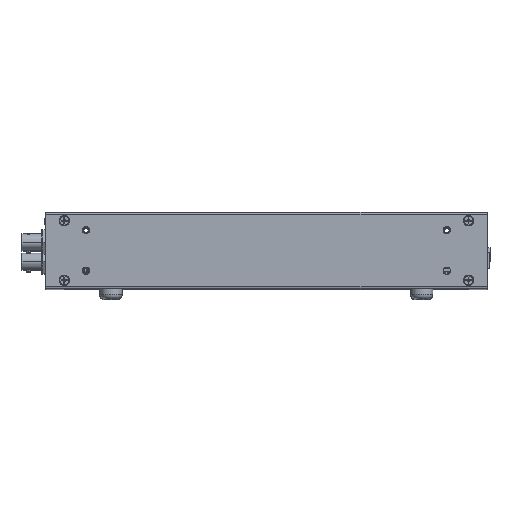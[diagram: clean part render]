
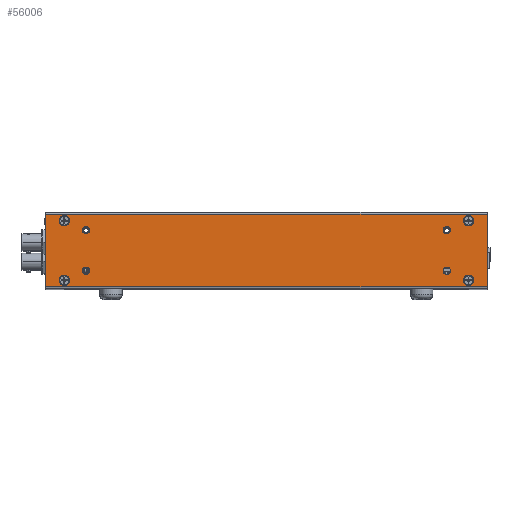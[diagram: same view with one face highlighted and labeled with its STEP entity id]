
A CAD part, top view. The second image highlights one B-rep face of the part: STEP entity #56006.
In plain terms, the highlighted planar face has unit normal (0, 0, 1).
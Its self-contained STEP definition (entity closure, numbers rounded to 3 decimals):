
#13926=DIRECTION('',(0.,-1.,0.));
#13927=VECTOR('',#13926,1.65);
#13928=CARTESIAN_POINT('',(10.,1.69,12.06));
#13929=LINE('',#13928,#13927);
#13962=DIRECTION('',(0.,-1.,0.));
#13963=VECTOR('',#13962,1.65);
#13964=CARTESIAN_POINT('',(0.,1.69,12.06));
#13965=LINE('',#13964,#13963);
#13978=DIRECTION('',(-1.,0.,0.));
#13979=VECTOR('',#13978,10.);
#13980=CARTESIAN_POINT('',(10.,1.69,12.06));
#13981=LINE('',#13980,#13979);
#13996=CARTESIAN_POINT('',(0.422,1.54,12.06));
#13997=DIRECTION('',(0.,0.,-1.));
#13998=DIRECTION('',(0.,1.,0.));
#13999=AXIS2_PLACEMENT_3D('',#13996,#13997,#13998);
#14001=CARTESIAN_POINT('',(0.422,1.54,12.06));
#14002=DIRECTION('',(0.,0.,-1.));
#14003=DIRECTION('',(0.,-1.,0.));
#14004=AXIS2_PLACEMENT_3D('',#14001,#14002,#14003);
#14006=CARTESIAN_POINT('',(0.422,0.19,12.06));
#14007=DIRECTION('',(0.,0.,-1.));
#14008=DIRECTION('',(0.,1.,0.));
#14009=AXIS2_PLACEMENT_3D('',#14006,#14007,#14008);
#14011=CARTESIAN_POINT('',(0.422,0.19,12.06));
#14012=DIRECTION('',(0.,0.,-1.));
#14013=DIRECTION('',(0.,-1.,0.));
#14014=AXIS2_PLACEMENT_3D('',#14011,#14012,#14013);
#14016=CARTESIAN_POINT('',(9.578,1.54,12.06));
#14017=DIRECTION('',(0.,0.,-1.));
#14018=DIRECTION('',(0.,1.,0.));
#14019=AXIS2_PLACEMENT_3D('',#14016,#14017,#14018);
#14021=CARTESIAN_POINT('',(9.578,1.54,12.06));
#14022=DIRECTION('',(0.,0.,-1.));
#14023=DIRECTION('',(0.,-1.,0.));
#14024=AXIS2_PLACEMENT_3D('',#14021,#14022,#14023);
#14026=CARTESIAN_POINT('',(9.578,0.19,12.06));
#14027=DIRECTION('',(0.,0.,-1.));
#14028=DIRECTION('',(0.,1.,0.));
#14029=AXIS2_PLACEMENT_3D('',#14026,#14027,#14028);
#14031=CARTESIAN_POINT('',(9.578,0.19,12.06));
#14032=DIRECTION('',(0.,0.,-1.));
#14033=DIRECTION('',(0.,-1.,0.));
#14034=AXIS2_PLACEMENT_3D('',#14031,#14032,#14033);
#14036=CARTESIAN_POINT('',(0.915,1.325,12.06));
#14037=DIRECTION('',(0.,0.,-1.));
#14038=DIRECTION('',(-1.,0.,0.));
#14039=AXIS2_PLACEMENT_3D('',#14036,#14037,#14038);
#14041=CARTESIAN_POINT('',(0.915,1.325,12.06));
#14042=DIRECTION('',(0.,0.,-1.));
#14043=DIRECTION('',(1.,0.,0.));
#14044=AXIS2_PLACEMENT_3D('',#14041,#14042,#14043);
#14046=CARTESIAN_POINT('',(0.915,0.405,12.06));
#14047=DIRECTION('',(0.,0.,-1.));
#14048=DIRECTION('',(-1.,0.,0.));
#14049=AXIS2_PLACEMENT_3D('',#14046,#14047,#14048);
#14051=CARTESIAN_POINT('',(0.915,0.405,12.06));
#14052=DIRECTION('',(0.,0.,-1.));
#14053=DIRECTION('',(1.,0.,0.));
#14054=AXIS2_PLACEMENT_3D('',#14051,#14052,#14053);
#14056=CARTESIAN_POINT('',(9.085,1.325,12.06));
#14057=DIRECTION('',(0.,0.,-1.));
#14058=DIRECTION('',(-1.,0.,0.));
#14059=AXIS2_PLACEMENT_3D('',#14056,#14057,#14058);
#14061=CARTESIAN_POINT('',(9.085,1.325,12.06));
#14062=DIRECTION('',(0.,0.,-1.));
#14063=DIRECTION('',(1.,0.,0.));
#14064=AXIS2_PLACEMENT_3D('',#14061,#14062,#14063);
#14066=CARTESIAN_POINT('',(9.085,0.405,12.06));
#14067=DIRECTION('',(0.,0.,-1.));
#14068=DIRECTION('',(-1.,0.,0.));
#14069=AXIS2_PLACEMENT_3D('',#14066,#14067,#14068);
#14071=CARTESIAN_POINT('',(9.085,0.405,12.06));
#14072=DIRECTION('',(0.,0.,-1.));
#14073=DIRECTION('',(1.,0.,0.));
#14074=AXIS2_PLACEMENT_3D('',#14071,#14072,#14073);
#14085=DIRECTION('',(-1.,0.,0.));
#14086=VECTOR('',#14085,10.);
#14087=CARTESIAN_POINT('',(10.,0.04,12.06));
#14088=LINE('',#14087,#14086);
#28703=CARTESIAN_POINT('',(0.422,1.658,12.06));
#28704=CARTESIAN_POINT('',(0.422,1.423,12.06));
#28705=VERTEX_POINT('',#28703);
#28706=VERTEX_POINT('',#28704);
#28707=CARTESIAN_POINT('',(0.422,0.308,12.06));
#28708=CARTESIAN_POINT('',(0.422,0.073,12.06));
#28709=VERTEX_POINT('',#28707);
#28710=VERTEX_POINT('',#28708);
#28739=CARTESIAN_POINT('',(9.578,1.658,12.06));
#28740=CARTESIAN_POINT('',(9.578,1.423,12.06));
#28741=VERTEX_POINT('',#28739);
#28742=VERTEX_POINT('',#28740);
#28743=CARTESIAN_POINT('',(9.578,0.308,12.06));
#28744=CARTESIAN_POINT('',(9.578,0.073,12.06));
#28745=VERTEX_POINT('',#28743);
#28746=VERTEX_POINT('',#28744);
#28771=CARTESIAN_POINT('',(10.,1.69,12.06));
#28772=CARTESIAN_POINT('',(0.,1.69,12.06));
#28773=VERTEX_POINT('',#28771);
#28774=VERTEX_POINT('',#28772);
#28783=CARTESIAN_POINT('',(0.,0.04,12.06));
#28784=VERTEX_POINT('',#28783);
#28785=CARTESIAN_POINT('',(10.,0.04,12.06));
#28786=VERTEX_POINT('',#28785);
#28787=CARTESIAN_POINT('',(0.832,1.325,12.06));
#28788=CARTESIAN_POINT('',(0.998,1.325,12.06));
#28789=VERTEX_POINT('',#28787);
#28790=VERTEX_POINT('',#28788);
#28791=CARTESIAN_POINT('',(0.832,0.405,12.06));
#28792=CARTESIAN_POINT('',(0.998,0.405,12.06));
#28793=VERTEX_POINT('',#28791);
#28794=VERTEX_POINT('',#28792);
#28795=CARTESIAN_POINT('',(9.002,1.325,12.06));
#28796=CARTESIAN_POINT('',(9.168,1.325,12.06));
#28797=VERTEX_POINT('',#28795);
#28798=VERTEX_POINT('',#28796);
#28799=CARTESIAN_POINT('',(9.002,0.405,12.06));
#28800=CARTESIAN_POINT('',(9.168,0.405,12.06));
#28801=VERTEX_POINT('',#28799);
#28802=VERTEX_POINT('',#28800);
#55946=CARTESIAN_POINT('',(0.,1.73,12.06));
#55947=DIRECTION('',(0.,0.,1.));
#55948=DIRECTION('',(0.,-1.,0.));
#55949=AXIS2_PLACEMENT_3D('',#55946,#55947,#55948);
#55950=PLANE('',#55949);
#55952=ORIENTED_EDGE('',*,*,#55951,.T.);
#55953=ORIENTED_EDGE('',*,*,#55911,.F.);
#55954=ORIENTED_EDGE('',*,*,#55938,.F.);
#55955=ORIENTED_EDGE('',*,*,#55858,.T.);
#55956=EDGE_LOOP('',(#55952,#55953,#55954,#55955));
#55957=FACE_OUTER_BOUND('',#55956,.F.);
#55959=ORIENTED_EDGE('',*,*,#55958,.F.);
#55961=ORIENTED_EDGE('',*,*,#55960,.F.);
#55962=EDGE_LOOP('',(#55959,#55961));
#55963=FACE_BOUND('',#55962,.F.);
#55965=ORIENTED_EDGE('',*,*,#55964,.F.);
#55967=ORIENTED_EDGE('',*,*,#55966,.F.);
#55968=EDGE_LOOP('',(#55965,#55967));
#55969=FACE_BOUND('',#55968,.F.);
#55971=ORIENTED_EDGE('',*,*,#55970,.F.);
#55973=ORIENTED_EDGE('',*,*,#55972,.F.);
#55974=EDGE_LOOP('',(#55971,#55973));
#55975=FACE_BOUND('',#55974,.F.);
#55977=ORIENTED_EDGE('',*,*,#55976,.F.);
#55979=ORIENTED_EDGE('',*,*,#55978,.F.);
#55980=EDGE_LOOP('',(#55977,#55979));
#55981=FACE_BOUND('',#55980,.F.);
#55983=ORIENTED_EDGE('',*,*,#55982,.F.);
#55985=ORIENTED_EDGE('',*,*,#55984,.F.);
#55986=EDGE_LOOP('',(#55983,#55985));
#55987=FACE_BOUND('',#55986,.F.);
#55989=ORIENTED_EDGE('',*,*,#55988,.F.);
#55991=ORIENTED_EDGE('',*,*,#55990,.F.);
#55992=EDGE_LOOP('',(#55989,#55991));
#55993=FACE_BOUND('',#55992,.F.);
#55995=ORIENTED_EDGE('',*,*,#55994,.F.);
#55997=ORIENTED_EDGE('',*,*,#55996,.F.);
#55998=EDGE_LOOP('',(#55995,#55997));
#55999=FACE_BOUND('',#55998,.F.);
#56001=ORIENTED_EDGE('',*,*,#56000,.F.);
#56003=ORIENTED_EDGE('',*,*,#56002,.F.);
#56004=EDGE_LOOP('',(#56001,#56003));
#56005=FACE_BOUND('',#56004,.F.);
#56006=ADVANCED_FACE('',(#55957,#55963,#55969,#55975,#55981,#55987,#55993,
#55999,#56005),#55950,.T.);
#14000=CIRCLE('',#13999,0.118);
#14005=CIRCLE('',#14004,0.118);
#14010=CIRCLE('',#14009,0.118);
#14015=CIRCLE('',#14014,0.118);
#14020=CIRCLE('',#14019,0.118);
#14025=CIRCLE('',#14024,0.118);
#14030=CIRCLE('',#14029,0.118);
#14035=CIRCLE('',#14034,0.118);
#14040=CIRCLE('',#14039,0.083);
#14045=CIRCLE('',#14044,0.083);
#14050=CIRCLE('',#14049,0.083);
#14055=CIRCLE('',#14054,0.083);
#14060=CIRCLE('',#14059,0.083);
#14065=CIRCLE('',#14064,0.083);
#14070=CIRCLE('',#14069,0.083);
#14075=CIRCLE('',#14074,0.083);
#55858=EDGE_CURVE('',#28773,#28786,#13929,.T.);
#55911=EDGE_CURVE('',#28774,#28784,#13965,.T.);
#55938=EDGE_CURVE('',#28773,#28774,#13981,.T.);
#55951=EDGE_CURVE('',#28786,#28784,#14088,.T.);
#55958=EDGE_CURVE('',#28705,#28706,#14000,.T.);
#55960=EDGE_CURVE('',#28706,#28705,#14005,.T.);
#55964=EDGE_CURVE('',#28709,#28710,#14010,.T.);
#55966=EDGE_CURVE('',#28710,#28709,#14015,.T.);
#55970=EDGE_CURVE('',#28741,#28742,#14020,.T.);
#55972=EDGE_CURVE('',#28742,#28741,#14025,.T.);
#55976=EDGE_CURVE('',#28745,#28746,#14030,.T.);
#55978=EDGE_CURVE('',#28746,#28745,#14035,.T.);
#55982=EDGE_CURVE('',#28789,#28790,#14040,.T.);
#55984=EDGE_CURVE('',#28790,#28789,#14045,.T.);
#55988=EDGE_CURVE('',#28793,#28794,#14050,.T.);
#55990=EDGE_CURVE('',#28794,#28793,#14055,.T.);
#55994=EDGE_CURVE('',#28797,#28798,#14060,.T.);
#55996=EDGE_CURVE('',#28798,#28797,#14065,.T.);
#56000=EDGE_CURVE('',#28801,#28802,#14070,.T.);
#56002=EDGE_CURVE('',#28802,#28801,#14075,.T.);
